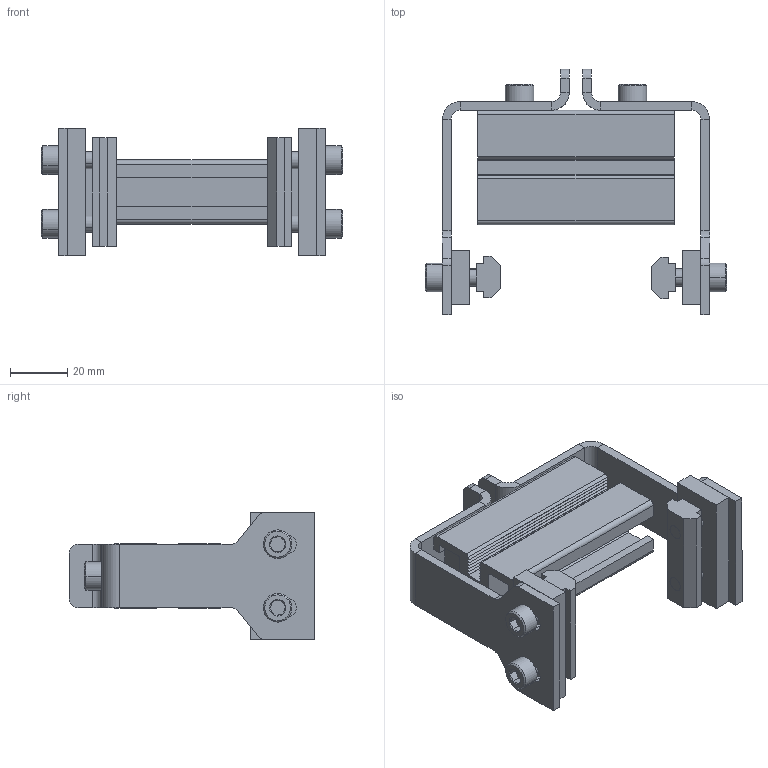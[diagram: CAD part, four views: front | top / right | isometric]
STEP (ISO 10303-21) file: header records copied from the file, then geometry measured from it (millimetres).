
FILE_DESCRIPTION (( 'STEP AP203' ), '1' );
FILE_NAME ('207133-03.STEP', '2017-01-13T16:00:43', ( '' ), ( '' ), 'SwSTEP 2.0', 'SolidWorks 2015', '' );
FILE_SCHEMA (( 'CONFIG_CONTROL_DESIGN' ));
Length unit declared in the file: inch
Products named in the file (8): 200626M; 207135-WW_207135-03; 9206XXM_920620M; 639971M_CAE; 207133-03; 201937; 202444; 9206XXM_920614M
Assembly tree (15 placements, depth 2):
  207133-03
    201937  x2
    207135-WW_207135-03
    202444  x2
    200626M  x2
    639971M_CAE  x2
    9206XXM_920614M  x2
    9206XXM_920620M  x4
Bounding box: 105.37 x 85.8 x 44.45 mm (x, y, z)
Volume: 72057 mm3; surface area: 47912.4 mm2
Topology: 15 solids, 15 shells, 428 faces, 1030 edges, 644 vertices
Faces by surface type: plane 258, cylinder 104, cone 66
Entity records: 8258 total; most frequent: CARTESIAN_POINT 1362, DIRECTION 1216, ORIENTED_EDGE 1200, EDGE_CURVE 600, LINE 460, VECTOR 460, VERTEX_POINT 384, AXIS2_PLACEMENT_3D 378
